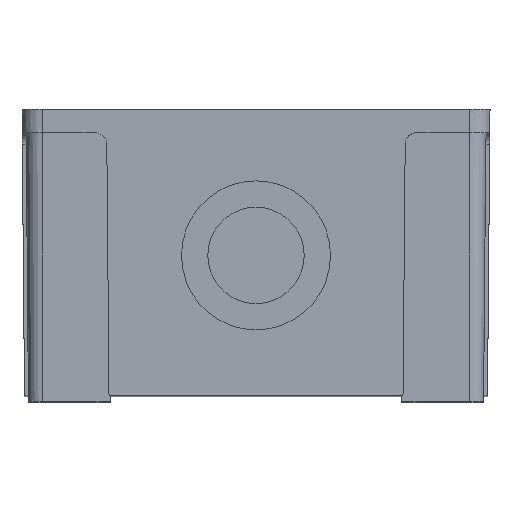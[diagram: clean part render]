
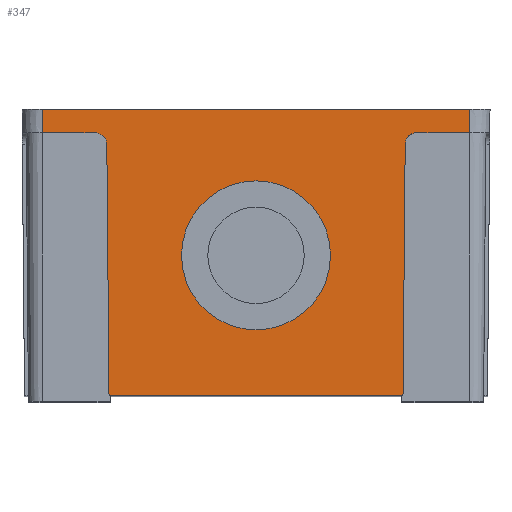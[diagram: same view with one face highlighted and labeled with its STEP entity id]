
A CAD part, top view. The second image highlights one B-rep face of the part: STEP entity #347.
In plain terms, the highlighted planar face has unit normal (0, -0.009, 1).
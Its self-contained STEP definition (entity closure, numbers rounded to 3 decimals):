
#312 = VERTEX_POINT ( 'NONE', #4106 ) ;
#344 = VERTEX_POINT ( 'NONE', #4180 ) ;
#346 = EDGE_CURVE ( 'NONE', #366, #344, #4179, .T. ) ;
#347 = ADVANCED_FACE ( 'NONE', ( #4175, #4174 ), #4173, .T. ) ;
#348 = EDGE_LOOP ( 'NONE', ( #349, #351 ) ) ;
#349 = ORIENTED_EDGE ( 'NONE', *, *, #350, .F. ) ;
#350 = EDGE_CURVE ( 'NONE', #2854, #2847, #4168, .T. ) ;
#351 = ORIENTED_EDGE ( 'NONE', *, *, #2853, .F. ) ;
#352 = EDGE_LOOP ( 'NONE', ( #353, #413, #416, #418, #419, #421, #422, #398, #401, #403 ) ) ;
#353 = ORIENTED_EDGE ( 'NONE', *, *, #354, .F. ) ;
#354 = EDGE_CURVE ( 'NONE', #412, #2206, #4163, .T. ) ;
#366 = VERTEX_POINT ( 'NONE', #4197 ) ;
#368 = EDGE_CURVE ( 'NONE', #312, #369, #4196, .T. ) ;
#369 = VERTEX_POINT ( 'NONE', #4192 ) ;
#398 = ORIENTED_EDGE ( 'NONE', *, *, #399, .T. ) ;
#399 = EDGE_CURVE ( 'NONE', #424, #400, #4254, .T. ) ;
#400 = VERTEX_POINT ( 'NONE', #4256 ) ;
#401 = ORIENTED_EDGE ( 'NONE', *, *, #402, .F. ) ;
#402 = EDGE_CURVE ( 'NONE', #2272, #400, #4248, .T. ) ;
#403 = ORIENTED_EDGE ( 'NONE', *, *, #2271, .T. ) ;
#412 = VERTEX_POINT ( 'NONE', #4275 ) ;
#413 = ORIENTED_EDGE ( 'NONE', *, *, #414, .T. ) ;
#414 = EDGE_CURVE ( 'NONE', #412, #415, #4272, .T. ) ;
#415 = VERTEX_POINT ( 'NONE', #4274 ) ;
#416 = ORIENTED_EDGE ( 'NONE', *, *, #417, .F. ) ;
#417 = EDGE_CURVE ( 'NONE', #366, #415, #4273, .T. ) ;
#418 = ORIENTED_EDGE ( 'NONE', *, *, #346, .T. ) ;
#419 = ORIENTED_EDGE ( 'NONE', *, *, #420, .F. ) ;
#420 = EDGE_CURVE ( 'NONE', #369, #344, #4318, .T. ) ;
#421 = ORIENTED_EDGE ( 'NONE', *, *, #368, .F. ) ;
#422 = ORIENTED_EDGE ( 'NONE', *, *, #423, .T. ) ;
#423 = EDGE_CURVE ( 'NONE', #312, #424, #4313, .T. ) ;
#424 = VERTEX_POINT ( 'NONE', #4309 ) ;
#2206 = VERTEX_POINT ( 'NONE', #7092 ) ;
#2271 = EDGE_CURVE ( 'NONE', #2272, #2206, #7179, .T. ) ;
#2272 = VERTEX_POINT ( 'NONE', #7175 ) ;
#2847 = VERTEX_POINT ( 'NONE', #8188 ) ;
#2853 = EDGE_CURVE ( 'NONE', #2847, #2854, #8245, .T. ) ;
#2854 = VERTEX_POINT ( 'NONE', #8240 ) ;
#3761 = DIRECTION ( 'NONE',  ( -0.009, 1., 0.009 ) ) ;
#3766 = VECTOR ( 'NONE', #3761, 1000. ) ;
#4106 = CARTESIAN_POINT ( 'NONE',  ( -36.55, -4., 65.015 ) ) ;
#4160 = DIRECTION ( 'NONE',  ( -0.009, -1., -0.009 ) ) ;
#4161 = VECTOR ( 'NONE', #4160, 1000. ) ;
#4162 = CARTESIAN_POINT ( 'NONE',  ( 25.58, -0.542, 65.045 ) ) ;
#4163 = LINE ( 'NONE', #4162, #4161 ) ;
#4164 = DIRECTION ( 'NONE',  ( 0., -1., -0.009 ) ) ;
#4165 = DIRECTION ( 'NONE',  ( 0., -0.009, 1. ) ) ;
#4166 = CARTESIAN_POINT ( 'NONE',  ( 0., -25.007, 64.832 ) ) ;
#4167 = AXIS2_PLACEMENT_3D ( 'NONE', #4166, #4165, #4164 ) ;
#4168 = CIRCLE ( 'NONE', #4167, 12.75 ) ;
#4169 = DIRECTION ( 'NONE',  ( 0., -1., -0.009 ) ) ;
#4170 = DIRECTION ( 'NONE',  ( 0., -0.009, 1. ) ) ;
#4171 = CARTESIAN_POINT ( 'NONE',  ( -36.55, 0., 65.05 ) ) ;
#4172 = AXIS2_PLACEMENT_3D ( 'NONE', #4171, #4170, #4169 ) ;
#4173 = PLANE ( 'NONE',  #4172 ) ;
#4174 = FACE_OUTER_BOUND ( 'NONE', #352, .T. ) ;
#4175 = FACE_BOUND ( 'NONE', #348, .T. ) ;
#4176 = DIRECTION ( 'NONE',  ( 0., 1., 0.009 ) ) ;
#4177 = VECTOR ( 'NONE', #4176, 1000. ) ;
#4178 = CARTESIAN_POINT ( 'NONE',  ( 36.55, 0., 65.05 ) ) ;
#4179 = LINE ( 'NONE', #4178, #4177 ) ;
#4180 = CARTESIAN_POINT ( 'NONE',  ( 36.55, 0., 65.05 ) ) ;
#4192 = CARTESIAN_POINT ( 'NONE',  ( -36.55, 0., 65.05 ) ) ;
#4193 = DIRECTION ( 'NONE',  ( 0., 1., 0.009 ) ) ;
#4194 = VECTOR ( 'NONE', #4193, 1000. ) ;
#4195 = CARTESIAN_POINT ( 'NONE',  ( -36.55, 0., 65.05 ) ) ;
#4196 = LINE ( 'NONE', #4195, #4194 ) ;
#4197 = CARTESIAN_POINT ( 'NONE',  ( 36.55, -4., 65.015 ) ) ;
#4248 = LINE ( 'NONE', #4255, #3766 ) ;
#4250 = CARTESIAN_POINT ( 'NONE',  ( -25.533, -5.983, 64.998 ) ) ;
#4251 = CARTESIAN_POINT ( 'NONE',  ( -25.543, -4.819, 65.008 ) ) ;
#4252 = CARTESIAN_POINT ( 'NONE',  ( -26.369, -4., 65.015 ) ) ;
#4253 = CARTESIAN_POINT ( 'NONE',  ( -27.533, -4., 65.015 ) ) ;
#4254 =( BOUNDED_CURVE ( )  B_SPLINE_CURVE ( 3, ( #4253, #4252, #4251, #4250 ),
 .UNSPECIFIED., .F., .T. ) 
 B_SPLINE_CURVE_WITH_KNOTS ( ( 4, 4 ),
 ( 3.142, 4.704 ),
 .UNSPECIFIED. ) 
 CURVE ( )  GEOMETRIC_REPRESENTATION_ITEM ( )  RATIONAL_B_SPLINE_CURVE ( ( 1., 0.807, 0.807, 1. ) ) 
 REPRESENTATION_ITEM ( '' )  );
#4255 = CARTESIAN_POINT ( 'NONE',  ( -25.586, 0.096, 65.051 ) ) ;
#4256 = CARTESIAN_POINT ( 'NONE',  ( -25.533, -5.983, 64.998 ) ) ;
#4268 = CARTESIAN_POINT ( 'NONE',  ( 27.533, -4., 65.015 ) ) ;
#4269 = CARTESIAN_POINT ( 'NONE',  ( 26.369, -4., 65.015 ) ) ;
#4270 = CARTESIAN_POINT ( 'NONE',  ( 25.543, -4.819, 65.008 ) ) ;
#4271 = CARTESIAN_POINT ( 'NONE',  ( 25.533, -5.983, 64.998 ) ) ;
#4272 =( BOUNDED_CURVE ( )  B_SPLINE_CURVE ( 3, ( #4271, #4270, #4269, #4268 ),
 .UNSPECIFIED., .F., .T. ) 
 B_SPLINE_CURVE_WITH_KNOTS ( ( 4, 4 ),
 ( 1.58, 3.142 ),
 .UNSPECIFIED. ) 
 CURVE ( )  GEOMETRIC_REPRESENTATION_ITEM ( )  RATIONAL_B_SPLINE_CURVE ( ( 1., 0.807, 0.807, 1. ) ) 
 REPRESENTATION_ITEM ( '' )  );
#4273 = LINE ( 'NONE', #4321, #4320 ) ;
#4274 = CARTESIAN_POINT ( 'NONE',  ( 27.533, -4., 65.015 ) ) ;
#4275 = CARTESIAN_POINT ( 'NONE',  ( 25.533, -5.983, 64.998 ) ) ;
#4309 = CARTESIAN_POINT ( 'NONE',  ( -27.533, -4., 65.015 ) ) ;
#4310 = DIRECTION ( 'NONE',  ( 1., 0., 0. ) ) ;
#4311 = VECTOR ( 'NONE', #4310, 1000. ) ;
#4312 = CARTESIAN_POINT ( 'NONE',  ( -36.55, -4., 65.015 ) ) ;
#4313 = LINE ( 'NONE', #4312, #4311 ) ;
#4315 = DIRECTION ( 'NONE',  ( 1., 0., 0. ) ) ;
#4316 = VECTOR ( 'NONE', #4315, 1000. ) ;
#4317 = CARTESIAN_POINT ( 'NONE',  ( -36.55, 0., 65.05 ) ) ;
#4318 = LINE ( 'NONE', #4317, #4316 ) ;
#4319 = DIRECTION ( 'NONE',  ( -1., 0., 0. ) ) ;
#4320 = VECTOR ( 'NONE', #4319, 1000. ) ;
#4321 = CARTESIAN_POINT ( 'NONE',  ( -36.55, -4., 65.015 ) ) ;
#7092 = CARTESIAN_POINT ( 'NONE',  ( 25.157, -49., 64.622 ) ) ;
#7175 = CARTESIAN_POINT ( 'NONE',  ( -25.157, -49., 64.622 ) ) ;
#7176 = DIRECTION ( 'NONE',  ( 1., 0., 0. ) ) ;
#7177 = VECTOR ( 'NONE', #7176, 1000. ) ;
#7178 = CARTESIAN_POINT ( 'NONE',  ( -36.55, -49., 64.622 ) ) ;
#7179 = LINE ( 'NONE', #7178, #7177 ) ;
#8188 = CARTESIAN_POINT ( 'NONE',  ( 0., -12.257, 64.943 ) ) ;
#8240 = CARTESIAN_POINT ( 'NONE',  ( 0., -37.756, 64.721 ) ) ;
#8241 = DIRECTION ( 'NONE',  ( 0., -1., -0.009 ) ) ;
#8242 = DIRECTION ( 'NONE',  ( 0., -0.009, 1. ) ) ;
#8243 = CARTESIAN_POINT ( 'NONE',  ( 0., -25.007, 64.832 ) ) ;
#8244 = AXIS2_PLACEMENT_3D ( 'NONE', #8243, #8242, #8241 ) ;
#8245 = CIRCLE ( 'NONE', #8244, 12.75 ) ;
